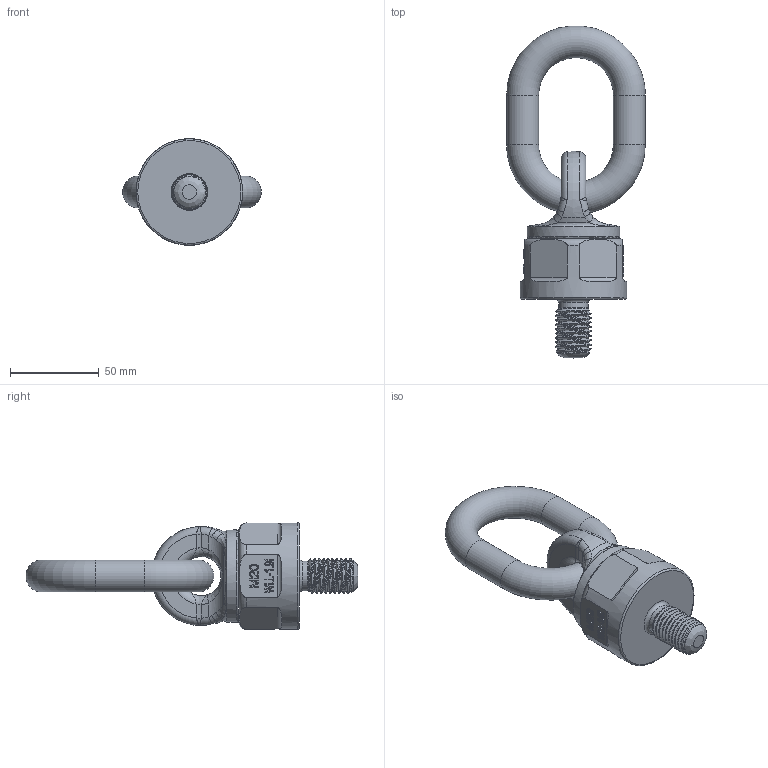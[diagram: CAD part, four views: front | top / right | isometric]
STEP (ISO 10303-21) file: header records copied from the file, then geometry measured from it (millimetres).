
FILE_DESCRIPTION(/* description */ (''),/* implementation_level */ '2;1');
FILE_NAME(/* name */ 'YTJ-M20.stp',/* time_stamp */ '2025-04-02T10:31:48+08:00',/* author */ (''),/* organization */ (''),/* preprocessor_version */ 'ST-DEVELOPER v16',/* originating_system */ 'SIEMENS PLM Software NX 10.0',/* authorisation */ '');
FILE_SCHEMA (('AP203_CONFIGURATION_CONTROLLED_3D_DESIGN_OF_MECHANICAL_PARTS_AND_ASSEMBLIES_MIM_LF { 1 0 10303 403 2 1 2}'));
Length unit declared in the file: millimetre
Products named in the file (1): Admi177C9AD32i00
Bounding box: 78 x 186.82 x 60 mm (x, y, z)
Volume: 200773.5 mm3; surface area: 41781.7 mm2
Topology: 3 solids, 3 shells, 295 faces, 748 edges, 475 vertices
Faces by surface type: plane 149, extrusion 59, bspline 40, torus 22, cylinder 21, cone 3, sphere 1
Full cylindrical faces by diameter (mm): 16.6 x1, 18 x2, 28 x1, 28.2 x1, 52 x1, 60 x1
Entity records: 12468 total; most frequent: CARTESIAN_POINT 6141, ORIENTED_EDGE 1406, DIRECTION 988, EDGE_CURVE 703, VERTEX_POINT 462, B_SPLINE_CURVE_WITH_KNOTS 353, EDGE_LOOP 345, VECTOR 342
